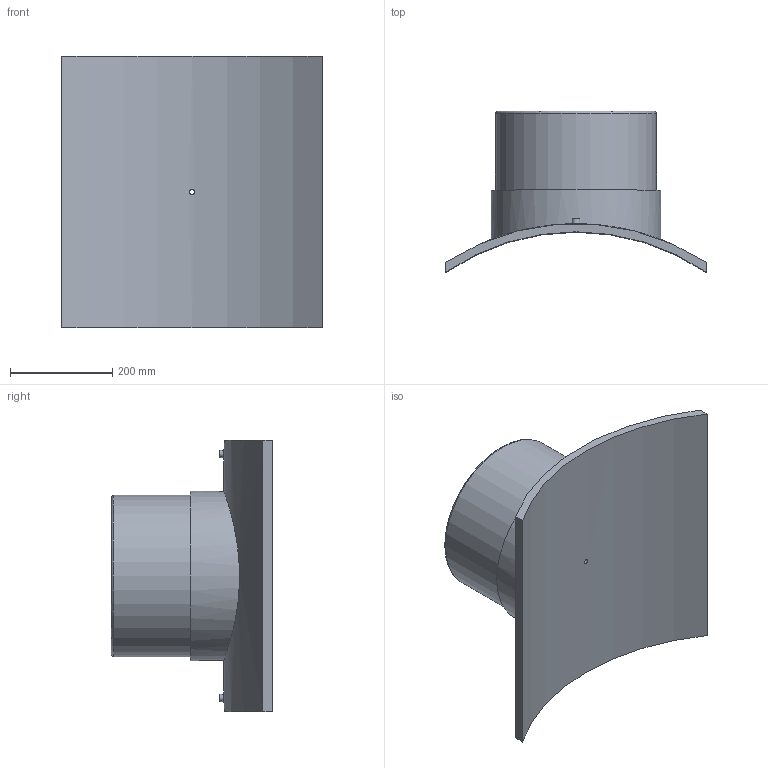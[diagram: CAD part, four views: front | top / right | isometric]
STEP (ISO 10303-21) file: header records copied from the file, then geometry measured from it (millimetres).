
FILE_DESCRIPTION(/* description */ ('PLASSON BRANCH SADDLE 900x315'),/* implementation_level */ '2;1');
FILE_NAME(/* name */ 'C:\Dropbox\99-16-3568-Processing\ElectroFusion Fittings\495803\495803900315T.ipt.stp',/* time_stamp */ '2021-02-25T09:46:12+02:00',/* author */ ('KIM'),/* organization */ (''),/* preprocessor_version */ 'ST-DEVELOPER v17.2',/* originating_system */ 'Autodesk Inventor 2019',/* authorisation */ '');
FILE_SCHEMA (('AUTOMOTIVE_DESIGN { 1 0 10303 214 3 1 1 }'));
Length unit declared in the file: millimetre
Products named in the file (1): 495803900315T
Bounding box: 510 x 315.22 x 530 mm (x, y, z)
Volume: 11719135.6 mm3; surface area: 1035502.4 mm2
Topology: 1 solids, 1 shells, 29 faces, 60 edges, 43 vertices
Faces by surface type: plane 13, cylinder 12, torus 2, cone 2
Full cylindrical faces by diameter (mm): 4 x2, 9.6 x1, 10 x2, 16 x1, 252 x1, 315 x1, 330.75 x1
Entity records: 1086 total; most frequent: CARTESIAN_POINT 400, DIRECTION 139, ORIENTED_EDGE 120, EDGE_CURVE 60, AXIS2_PLACEMENT_3D 60, VERTEX_POINT 43, EDGE_LOOP 41, CIRCLE 30
